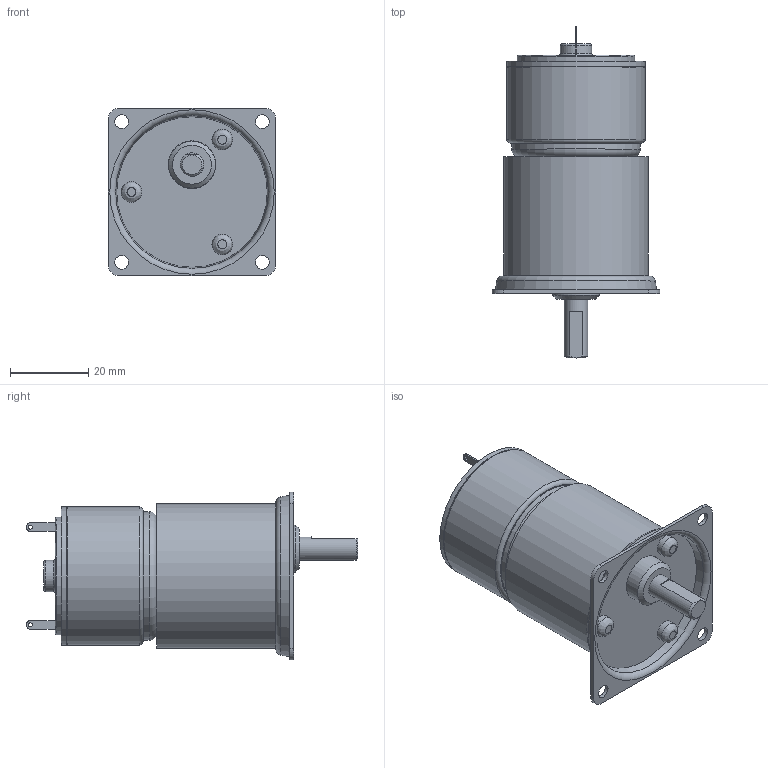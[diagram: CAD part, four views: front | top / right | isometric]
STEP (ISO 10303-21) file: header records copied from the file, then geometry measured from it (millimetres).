
FILE_DESCRIPTION((''),'2;1');
FILE_NAME('C:\Documents and Settings\SSEGAWA\デスクトップ\TP-3526G-PM-5.STP','2013-07-09T17:49:22',('SSEGAWA'),(''),'Autodesk Inventor 2010','Autodesk Inventor 2010','');
FILE_SCHEMA(('CONFIG_CONTROL_DESIGN'));
Length unit declared in the file: millimetre
Products named in the file (5): tp_3526g_pm_5; pm_5; km_5; □43; tp_3526g
Assembly tree (4 placements, depth 3):
  tp_3526g_pm_5
    pm_5
      km_5
      □43
    tp_3526g
Bounding box: 43 x 85 x 43 mm (x, y, z)
Volume: 60747.9 mm3; surface area: 15749.2 mm2
Topology: 3 solids, 3 shells, 107 faces, 226 edges, 148 vertices
Faces by surface type: plane 41, cylinder 31, bspline 24, torus 6, cone 5
Full cylindrical faces by diameter (mm): 2 x1, 2.4 x1, 4 x3, 5 x2, 5.3 x3, 6 x1, 8 x1, 10 x1, 12 x1, 12.2 x1, 30 x1, 33 x1, 35 x1, 35.4 x2, 37 x1
Entity records: 3085 total; most frequent: CARTESIAN_POINT 969, DIRECTION 439, ORIENTED_EDGE 302, EDGE_LOOP 199, AXIS2_PLACEMENT_3D 198, EDGE_CURVE 151, VERTEX_POINT 128, FACE_OUTER_BOUND 107
